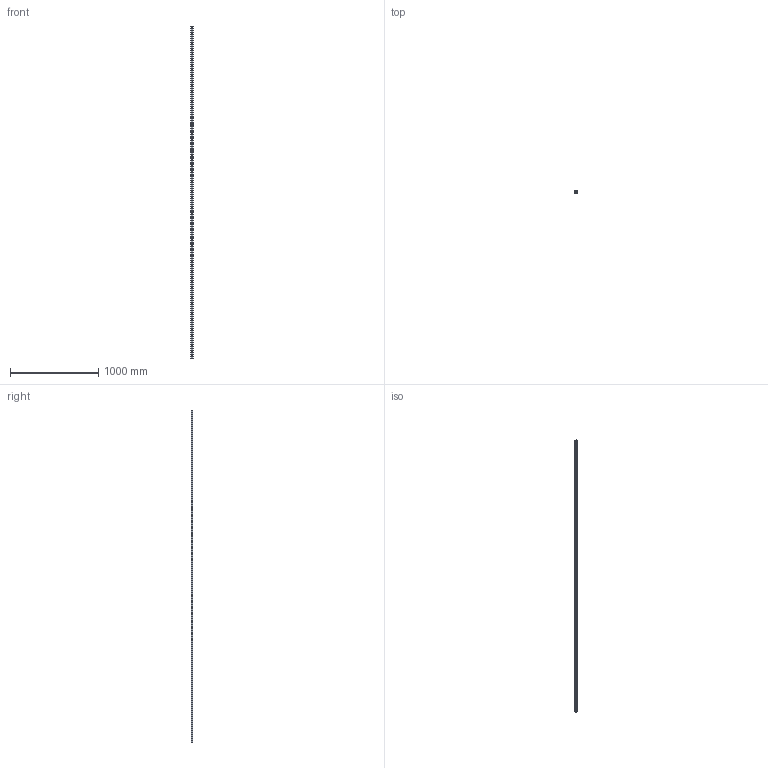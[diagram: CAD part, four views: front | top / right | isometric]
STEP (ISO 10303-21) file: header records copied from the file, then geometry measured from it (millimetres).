
FILE_DESCRIPTION (( 'STEP AP203' ), '1' );
FILE_NAME ('L1016.BRF25-3760.step', '2019-06-13T08:48:18', ( '' ), ( '' ), 'SwSTEP 2.0', 'SolidWorks 2017', '' );
FILE_SCHEMA (( 'CONFIG_CONTROL_DESIGN' ));
Length unit declared in the file: millimetre
Products named in the file (1): L1016.BRF25-3760
Bounding box: 23 x 19.2 x 3760 mm (x, y, z)
Volume: 1435620.6 mm3; surface area: 345773.8 mm2
Topology: 1 solids, 1 shells, 467 faces, 1080 edges, 615 vertices
Faces by surface type: cylinder 256, cone 126, plane 85
Entity records: 12493 total; most frequent: DIRECTION 2402, CARTESIAN_POINT 2037, ORIENTED_EDGE 1908, AXIS2_PLACEMENT_3D 980, EDGE_CURVE 954, VERTEX_POINT 615, EDGE_LOOP 593, CIRCLE 512
